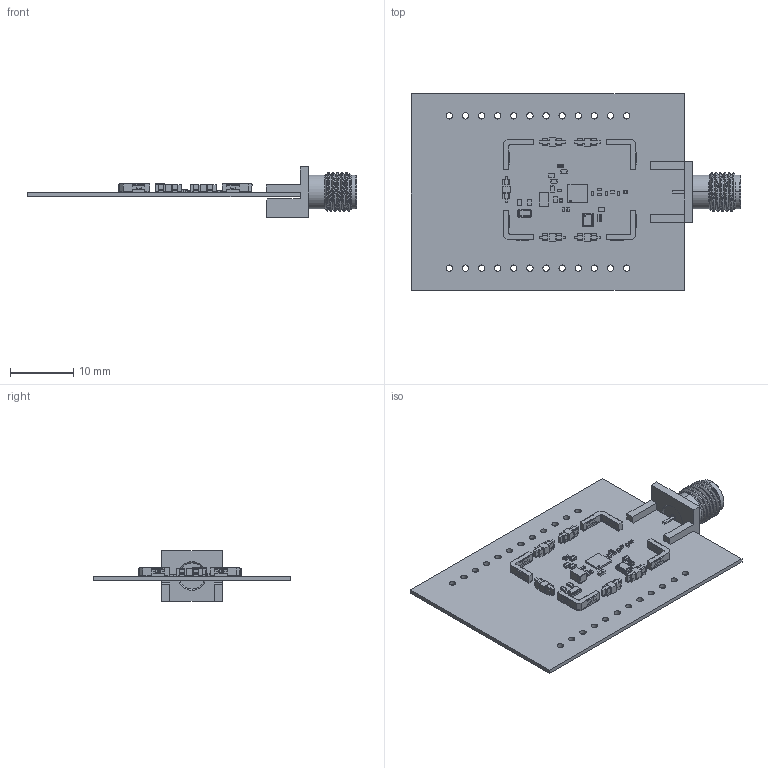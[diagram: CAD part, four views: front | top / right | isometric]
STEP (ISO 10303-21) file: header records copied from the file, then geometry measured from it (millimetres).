
FILE_DESCRIPTION(('Open CASCADE Model'),'2;1');
FILE_NAME('Open CASCADE Shape Model','2025-12-12T14:17:53',('Author'),( 'Open CASCADE'),'Open CASCADE STEP processor 7.5','Open CASCADE 7.5' ,'Unknown');
FILE_SCHEMA(('AUTOMOTIVE_DESIGN { 1 0 10303 214 1 1 1 1 }'));
Length unit declared in the file: millimetre
Products named in the file (99): PCB; Board; Open CASCADE STEP translator 7.5 1.1.1; CN3; 132415; SB4; R0402; 6878176208; Extruded; L4; Capacitors_0201_H0P3; 6878175168; C13; C0402; 6878169488; C5; 6878167488; C10; C15; 6878167648; C11; L1; STEP-WE-PMI-0805_STD-rev1; core; Pad; 6878175808; L2; 6878175648; 6878175568; 6878175488; 6878175408; C17; C16; C3; C14; X1; NX2016; 6878171488; 6506097584; SB1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
Assembly tree (172 placements, depth 4):
  PCB
    Board
      Open CASCADE STEP translator 7.5 1.1.1
    CN3
      132415
    SB4
      R0402
      6878176208
        Extruded
    L4
      Capacitors_0201_H0P3
      6878175168
        Extruded
    C13
      C0402
      6878169488
        Extruded
    C5
      C0402
      6878167488
        Extruded
    C10
      Capacitors_0201_H0P3
      6878175168
        Extruded
    C15
      Capacitors_0201_H0P3
      6878167648
        Extruded
    C11
      C0402
      6878169488
        Extruded
    L1
      STEP-WE-PMI-0805_STD-rev1
        core
        Pad  x2
      6878175808
        Extruded
    L2
      6878175648
        Extruded
      6878175568
      6878175568
      6878175488
        Extruded
      6878175408
      6878175408
    C17
      Capacitors_0201_H0P3
      6878167648
        Extruded
    C16
      Capacitors_0201_H0P3
      6878167648
        Extruded
    C3
      Capacitors_0201_H0P3
      6878175168
        Extruded
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Bounding box: 51.89 x 31 x 7.92 mm (x, y, z)
Volume: 1233.6 mm3; surface area: 4027.2 mm2
Topology: 131 solids, 137 shells, 4580 faces, 10647 edges, 6088 vertices
Faces by surface type: plane 2532, cylinder 1218, bspline 578, sphere 150, revolution 64, cone 20, torus 18
Full cylindrical faces by diameter (mm): 0.3 x1, 1 x24
Entity records: 53575 total; most frequent: CARTESIAN_POINT 16665, DIRECTION 6904, ORIENTED_EDGE 6756, EDGE_CURVE 3379, LINE 2350, VECTOR 2350, AXIS2_PLACEMENT_3D 2273, VERTEX_POINT 2038
